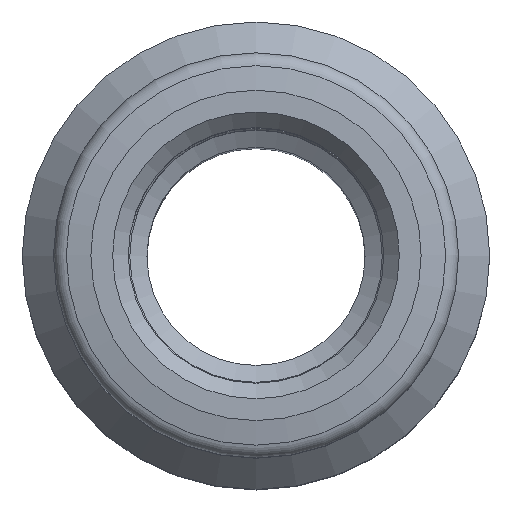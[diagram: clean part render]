
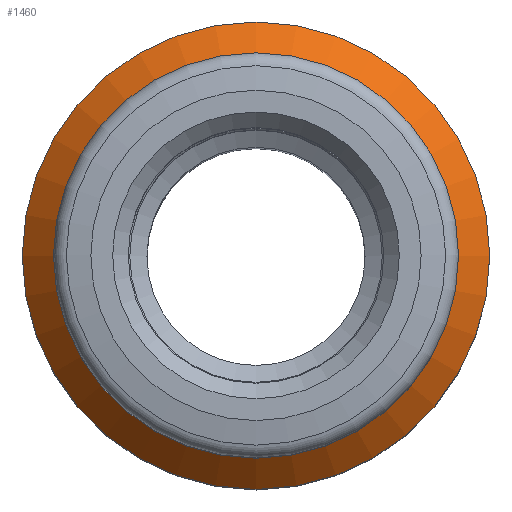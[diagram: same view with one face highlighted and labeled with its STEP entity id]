
A CAD part, top view. The second image highlights one B-rep face of the part: STEP entity #1460.
In plain terms, the highlighted conical face has half-angle 45 degrees and reference radius 7.5 mm.
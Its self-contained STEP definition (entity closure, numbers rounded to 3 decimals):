
#1460=ADVANCED_FACE('', (#1470,#1480), #1490, .T.);
#4430=AXIS2_PLACEMENT_3D('Ax2Pl3d', #4440, #4450, #4460);
#4470=AXIS2_PLACEMENT_3D('Ax2Pl3d', #4480, #4490, #4500);
#4510=AXIS2_PLACEMENT_3D('Ax2Pl3d', #4520, #4530, #4540);
#4440=CARTESIAN_POINT('HicPkt', (11.205,5.749,
41.006));
#5080=CARTESIAN_POINT('', (18.705,5.749,41.006));
#4480=CARTESIAN_POINT('HicPkt', (11.205,5.749,
41.006));
#4520=CARTESIAN_POINT('HicPkt', (11.205,5.749,
42.006));
#5090=CARTESIAN_POINT('', (17.705,5.749,42.006));
#5450=CIRCLE('Circle', #4430, 7.5);
#5460=CIRCLE('Circle', #4510, 6.5);
#1490=CONICAL_SURFACE('Kegel', #4470, 7.5, 0.785);
#4450=DIRECTION('Axis', (0.,0.,-1.));
#4460=DIRECTION('RefDirection', (-1.,-0.,0.));
#4490=DIRECTION('Axis', (0.,0.,-1.));
#4500=DIRECTION('RefDirection', (-1.,-0.,0.));
#4530=DIRECTION('Axis', (0.,0.,-1.));
#4540=DIRECTION('RefDirection', (-1.,-0.,0.));
#7370=EDGE_CURVE('', #7380, #7380, #5450, .T.);
#7390=EDGE_CURVE('', #7400, #7400, #5460, .T.);
#8790=EDGE_LOOP('Edge_loop', (#8800));
#8810=EDGE_LOOP('Edge_loop', (#8820));
#1480=FACE_BOUND('', #8810, .T.);
#1470=FACE_OUTER_BOUND('Face_outer_bound', #8790, .T.);
#8800=ORIENTED_EDGE('', *, *, #7370, .F.);
#8820=ORIENTED_EDGE('', *, *, #7390, .T.);
#7380=VERTEX_POINT('', #5080);
#7400=VERTEX_POINT('', #5090);
